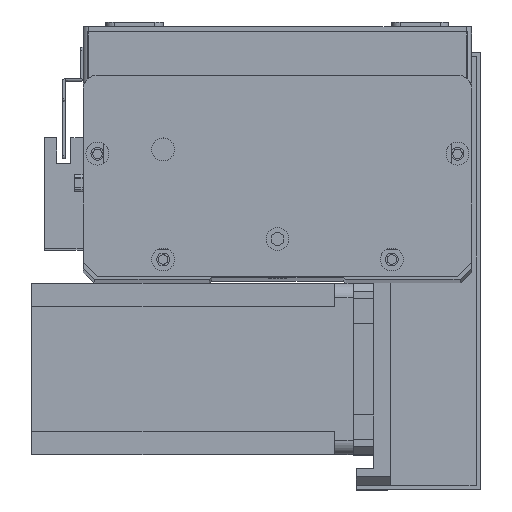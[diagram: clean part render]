
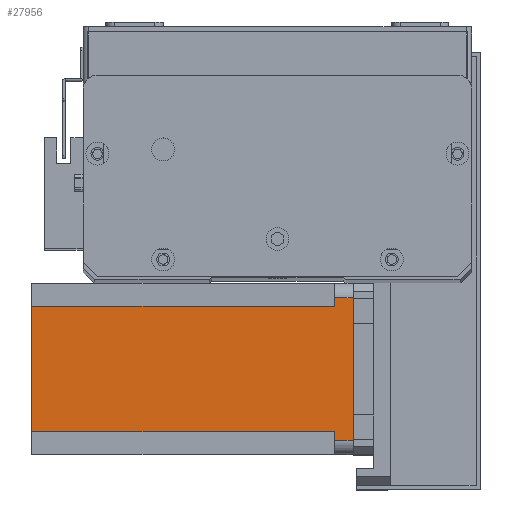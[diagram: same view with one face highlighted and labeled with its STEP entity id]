
A CAD part, top view. The second image highlights one B-rep face of the part: STEP entity #27956.
In plain terms, the highlighted planar face has unit normal (0, 0, 1) as drawn and (0, -1, 0) by its records, which use the part's own axes.
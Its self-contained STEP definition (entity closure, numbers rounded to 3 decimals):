
#490 = PLANE ( 'NONE',  #1267 ) ;
#726 = EDGE_CURVE ( 'NONE', #13155, #5061, #15845, .T. ) ;
#1157 = LINE ( 'NONE', #20662, #24208 ) ;
#1173 = CARTESIAN_POINT ( 'NONE',  ( 0., 0., 0. ) ) ;
#1267 = AXIS2_PLACEMENT_3D ( 'NONE', #22793, #20640, #7229 ) ;
#1768 = LINE ( 'NONE', #13422, #18902 ) ;
#2191 = EDGE_CURVE ( 'NONE', #5061, #4010, #1157, .T. ) ;
#2391 = CARTESIAN_POINT ( 'NONE',  ( 8., 0., -112.5 ) ) ;
#2736 = DIRECTION ( 'NONE',  ( 1., 0., 0. ) ) ;
#3157 = CARTESIAN_POINT ( 'NONE',  ( 55., 0., -6.5 ) ) ;
#3298 = CARTESIAN_POINT ( 'NONE',  ( 5., 0., -6.5 ) ) ;
#3430 = CARTESIAN_POINT ( 'NONE',  ( 55., 0., 0. ) ) ;
#3698 = EDGE_CURVE ( 'NONE', #10662, #8756, #1768, .T. ) ;
#4010 = VERTEX_POINT ( 'NONE', #3430 ) ;
#4489 = CARTESIAN_POINT ( 'NONE',  ( 52., 0., -6.5 ) ) ;
#4681 = DIRECTION ( 'NONE',  ( 1., 0., 0. ) ) ;
#5061 = VERTEX_POINT ( 'NONE', #3157 ) ;
#5081 = CARTESIAN_POINT ( 'NONE',  ( 0., 0., -112.5 ) ) ;
#5411 = DIRECTION ( 'NONE',  ( 0., 0., 1. ) ) ;
#5938 = EDGE_CURVE ( 'NONE', #10662, #4010, #19463, .T. ) ;
#5986 = CARTESIAN_POINT ( 'NONE',  ( 8., 0., -112.5 ) ) ;
#6497 = LINE ( 'NONE', #5081, #18368 ) ;
#7001 = ORIENTED_EDGE ( 'NONE', *, *, #10134, .T. ) ;
#7072 = EDGE_CURVE ( 'NONE', #12452, #8756, #28665, .T. ) ;
#7229 = DIRECTION ( 'NONE',  ( 0., 0., -1. ) ) ;
#7348 = VECTOR ( 'NONE', #13622, 1000. ) ;
#7360 = CARTESIAN_POINT ( 'NONE',  ( 5., 0., 0. ) ) ;
#7950 = DIRECTION ( 'NONE',  ( -1., 0., 0. ) ) ;
#8241 = EDGE_CURVE ( 'NONE', #15651, #12452, #26096, .T. ) ;
#8756 = VERTEX_POINT ( 'NONE', #3298 ) ;
#9954 = VECTOR ( 'NONE', #10009, 1000. ) ;
#10009 = DIRECTION ( 'NONE',  ( 1., 0., 0. ) ) ;
#10134 = EDGE_CURVE ( 'NONE', #15651, #21145, #6497, .T. ) ;
#10662 = VERTEX_POINT ( 'NONE', #7360 ) ;
#10911 = CARTESIAN_POINT ( 'NONE',  ( 52., 0., -6.5 ) ) ;
#11429 = ORIENTED_EDGE ( 'NONE', *, *, #7072, .F. ) ;
#11706 = ORIENTED_EDGE ( 'NONE', *, *, #2191, .T. ) ;
#11932 = FACE_OUTER_BOUND ( 'NONE', #21902, .T. ) ;
#11964 = ORIENTED_EDGE ( 'NONE', *, *, #8241, .F. ) ;
#12287 = CARTESIAN_POINT ( 'NONE',  ( 8., 0., -6.5 ) ) ;
#12452 = VERTEX_POINT ( 'NONE', #18910 ) ;
#13035 = DIRECTION ( 'NONE',  ( 0., 0., -1. ) ) ;
#13155 = VERTEX_POINT ( 'NONE', #4489 ) ;
#13271 = ORIENTED_EDGE ( 'NONE', *, *, #726, .T. ) ;
#13422 = CARTESIAN_POINT ( 'NONE',  ( 5., 0., -112.5 ) ) ;
#13622 = DIRECTION ( 'NONE',  ( 0., 0., -1. ) ) ;
#13695 = EDGE_CURVE ( 'NONE', #13155, #21145, #14753, .T. ) ;
#13867 = CARTESIAN_POINT ( 'NONE',  ( 52., 0., -112.5 ) ) ;
#13981 = CARTESIAN_POINT ( 'NONE',  ( 52., 0., -112.5 ) ) ;
#14753 = LINE ( 'NONE', #13981, #7348 ) ;
#15651 = VERTEX_POINT ( 'NONE', #2391 ) ;
#15845 = LINE ( 'NONE', #10911, #9954 ) ;
#17095 = ORIENTED_EDGE ( 'NONE', *, *, #13695, .F. ) ;
#18368 = VECTOR ( 'NONE', #4681, 1000. ) ;
#18749 = VECTOR ( 'NONE', #2736, 1000. ) ;
#18789 = ORIENTED_EDGE ( 'NONE', *, *, #5938, .F. ) ;
#18902 = VECTOR ( 'NONE', #13035, 1000. ) ;
#18910 = CARTESIAN_POINT ( 'NONE',  ( 8., 0., -6.5 ) ) ;
#19463 = LINE ( 'NONE', #1173, #18749 ) ;
#20200 = VECTOR ( 'NONE', #5411, 1000. ) ;
#20640 = DIRECTION ( 'NONE',  ( 0., -1., 0. ) ) ;
#20662 = CARTESIAN_POINT ( 'NONE',  ( 55., 0., -112.5 ) ) ;
#21145 = VERTEX_POINT ( 'NONE', #13867 ) ;
#21478 = DIRECTION ( 'NONE',  ( 0., 0., 1. ) ) ;
#21902 = EDGE_LOOP ( 'NONE', ( #13271, #11706, #18789, #26941, #11429, #11964, #7001, #17095 ) ) ;
#22793 = CARTESIAN_POINT ( 'NONE',  ( 0., 0., -112.5 ) ) ;
#22900 = VECTOR ( 'NONE', #7950, 1000. ) ;
#24208 = VECTOR ( 'NONE', #21478, 1000. ) ;
#26096 = LINE ( 'NONE', #5986, #20200 ) ;
#26941 = ORIENTED_EDGE ( 'NONE', *, *, #3698, .T. ) ;
#27956 = ADVANCED_FACE ( 'NONE', ( #11932 ), #490, .T. ) ;
#28665 = LINE ( 'NONE', #12287, #22900 ) ;
